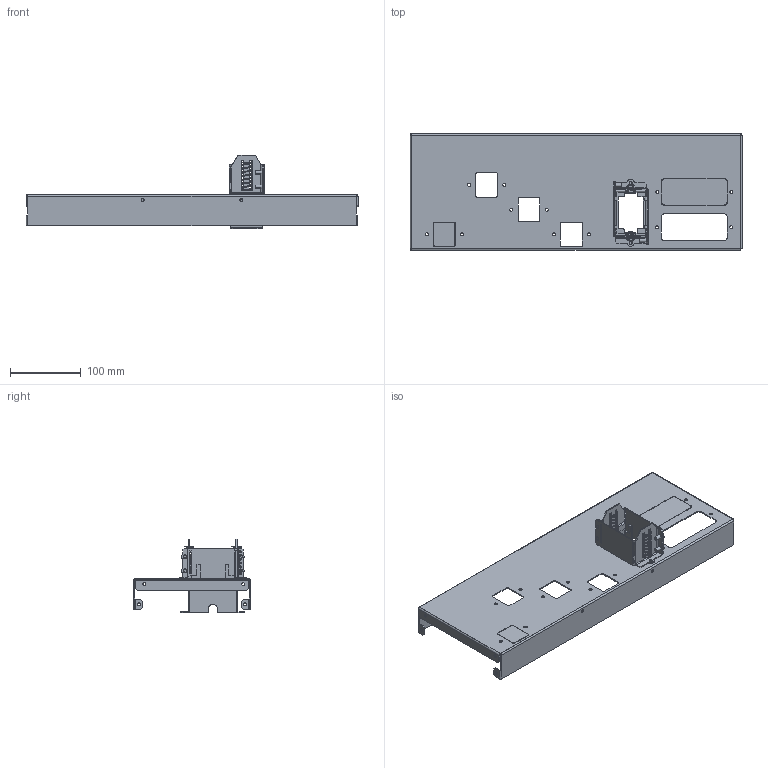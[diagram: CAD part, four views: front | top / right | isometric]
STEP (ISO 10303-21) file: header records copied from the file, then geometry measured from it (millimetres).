
FILE_DESCRIPTION(('CAx-IF Rec.Pracs.---Model Styling and Organization---1.2---2011-12-15','CAx-IF Rec.Pracs.---Geometric and Assembly Validation Properties---4.1---2014-06-16','CAx-IF Rec.Pracs.---PMI Polyline Presentation---2.0---2013-05-24'),'2;1');
FILE_NAME('R5M2W4M1BR21.stp','2021-05-05T12:20:51+03:00',(''),(''),'STEP Interface 4.4 by CT CoreTechnologie','3D_Evolution4.4 by CT CoreTechnologie','');
FILE_SCHEMA(('AUTOMOTIVE_DESIGN { 1 0 10303 214 1 1 1 1 }'));
Length unit declared in the file: millimetre
Products named in the file (8): R5M2W4M1BR21; RB.1506.00.00.0_-02; RB.1567.00.00.0_-00; RB.1765.00.00.0 ÑÁ; M5x8-DIN7500C_stright; RB.1570.00.00.0; RB.1569.00.00.1_-00; RB.1571.00.00.0_In prestressed condition - 40 mm
Assembly tree (13 placements, depth 3):
  R5M2W4M1BR21
    RB.1506.00.00.0_-02
    RB.1567.00.00.0_-00
    RB.1765.00.00.0 ÑÁ
      M5x8-DIN7500C_stright  x4
      RB.1570.00.00.0  x2
      RB.1569.00.00.1_-00  x2
      RB.1571.00.00.0_In prestressed condition - 40 mm  x2
Bounding box: 470 x 165 x 103.8 mm (x, y, z)
Surface area: 290365.6 mm2 (no closed solid volume)
Topology: 0 solids, 20 shells, 696 faces, 1855 edges, 1199 vertices
Faces by surface type: plane 464, cylinder 204, bspline 28
Entity records: 17946 total; most frequent: CARTESIAN_POINT 4358, ORIENTED_EDGE 2730, DIRECTION 2697, EDGE_CURVE 1365, VECTOR 1017, LINE 1017, VERTEX_POINT 881, AXIS2_PLACEMENT_3D 840
